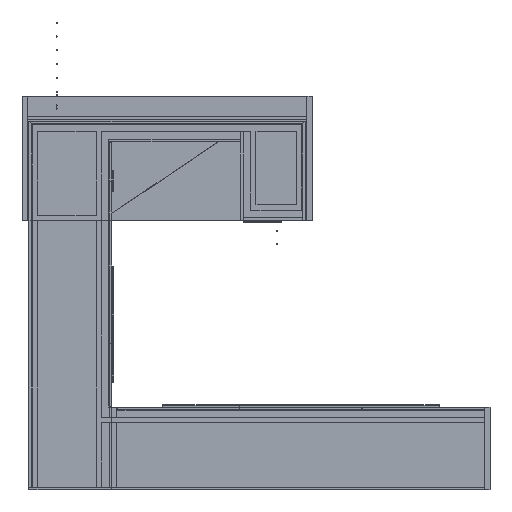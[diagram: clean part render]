
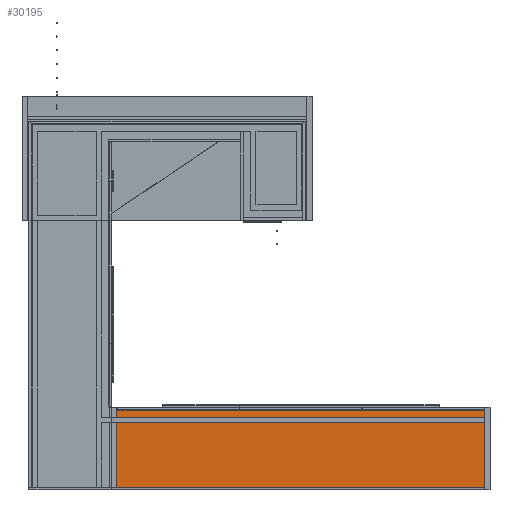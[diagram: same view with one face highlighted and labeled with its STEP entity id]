
A CAD part, front view. The second image highlights one B-rep face of the part: STEP entity #30195.
In plain terms, the highlighted planar face has unit normal (0, -1, 0).
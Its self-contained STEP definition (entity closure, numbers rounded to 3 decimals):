
#4827=FACE_OUTER_BOUND('',#6473,.T.);
#6473=EDGE_LOOP('',(#21155,#21156,#21157,#21158));
#8318=LINE('',#44756,#11189);
#8319=LINE('',#44758,#11190);
#8320=LINE('',#44760,#11191);
#8321=LINE('',#44761,#11192);
#11189=VECTOR('',#35759,0.394);
#11190=VECTOR('',#35760,0.394);
#11191=VECTOR('',#35761,0.394);
#11192=VECTOR('',#35762,0.394);
#13978=VERTEX_POINT('',#44754);
#13979=VERTEX_POINT('',#44755);
#13980=VERTEX_POINT('',#44757);
#13981=VERTEX_POINT('',#44759);
#16740=EDGE_CURVE('',#13978,#13979,#8318,.T.);
#16741=EDGE_CURVE('',#13979,#13980,#8319,.T.);
#16742=EDGE_CURVE('',#13981,#13980,#8320,.T.);
#16743=EDGE_CURVE('',#13978,#13981,#8321,.T.);
#21155=ORIENTED_EDGE('',*,*,#16740,.T.);
#21156=ORIENTED_EDGE('',*,*,#16741,.T.);
#21157=ORIENTED_EDGE('',*,*,#16742,.F.);
#21158=ORIENTED_EDGE('',*,*,#16743,.F.);
#29117=PLANE('',#32482);
#30195=ADVANCED_FACE('',(#4827),#29117,.T.);
#32482=AXIS2_PLACEMENT_3D('',#44753,#35757,#35758);
#35757=DIRECTION('center_axis',(0.,-1.,0.));
#35758=DIRECTION('ref_axis',(1.,0.,0.));
#35759=DIRECTION('',(1.,0.,0.));
#35760=DIRECTION('',(0.,0.,1.));
#35761=DIRECTION('',(1.,0.,0.));
#35762=DIRECTION('',(0.,0.,1.));
#44753=CARTESIAN_POINT('Origin',(-108.,1.5,0.75));
#44754=CARTESIAN_POINT('',(-108.,1.5,0.75));
#44755=CARTESIAN_POINT('',(-1.5,1.5,0.75));
#44756=CARTESIAN_POINT('',(-108.,1.5,0.75));
#44757=CARTESIAN_POINT('',(-1.5,1.5,23.125));
#44758=CARTESIAN_POINT('',(-1.5,1.5,0.75));
#44759=CARTESIAN_POINT('',(-108.,1.5,23.125));
#44760=CARTESIAN_POINT('',(-108.,1.5,23.125));
#44761=CARTESIAN_POINT('',(-108.,1.5,0.75));
